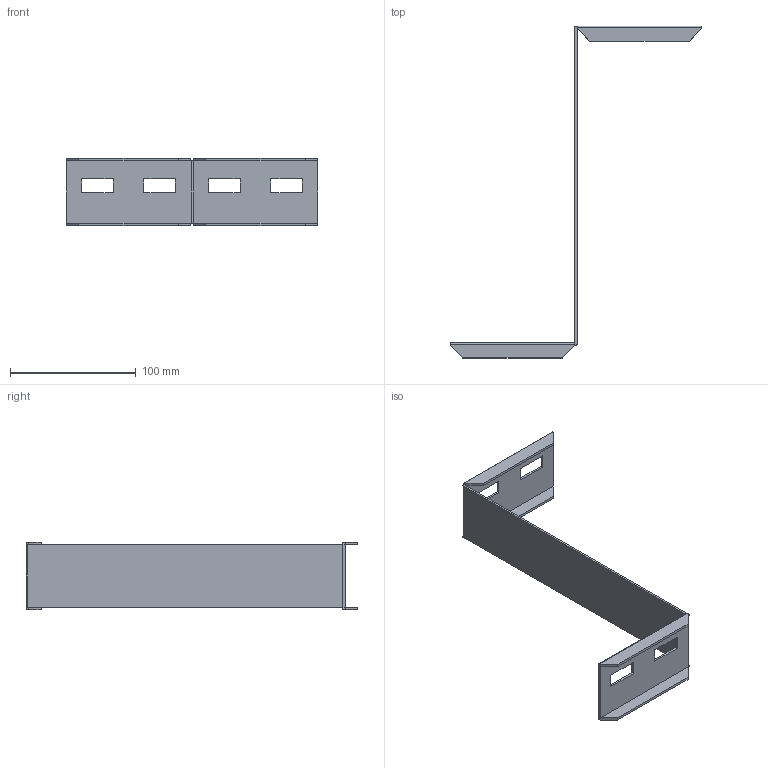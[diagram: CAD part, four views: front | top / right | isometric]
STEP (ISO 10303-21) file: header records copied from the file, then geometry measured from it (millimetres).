
FILE_DESCRIPTION(/* description */ ('','CAx-IF Rec.Pracs.---Representation and Presentation of Product Manufacturing Information (PMI)---4.0---2014-10-13'),/* implementation_level */ '2;1');
FILE_NAME(/* name */ 'Eurostrut_ERHR60-250_Right Hand Reducer for Cable Ladder ECL.step',/* time_stamp */ '2026-09-08T14:06:13+02:00',/* author */ (''),/* organization */ (''),/* preprocessor_version */ 'ST-DEVELOPER v20.1',/* originating_system */ 'Autodesk Revit 2027 27.2.0.39',/* authorisation */ '');
FILE_SCHEMA (('AP242_MANAGED_MODEL_BASED_3D_ENGINEERING_MIM_LF { 1 0 10303 442 2 1 4 }'));
Length unit declared in the file: millimetre
Products named in the file (4): TopLevelAssembly; Joined Solid Geometry; Joined Solid Geometry_1; Joined Solid Geometry_2
Assembly tree (3 placements, depth 2):
  TopLevelAssembly
    Joined Solid Geometry
    Joined Solid Geometry_1
    Joined Solid Geometry_2
Bounding box: 200 x 264 x 54 mm (x, y, z)
Volume: 51597.6 mm3; surface area: 55754.8 mm2
Topology: 5 solids, 5 shells, 64 faces, 162 edges, 108 vertices
Faces by surface type: plane 58, cylinder 6
Entity records: 1984 total; most frequent: CARTESIAN_POINT 341, ORIENTED_EDGE 324, DIRECTION 316, EDGE_CURVE 162, LINE 150, VECTOR 150, VERTEX_POINT 108, AXIS2_PLACEMENT_3D 83
